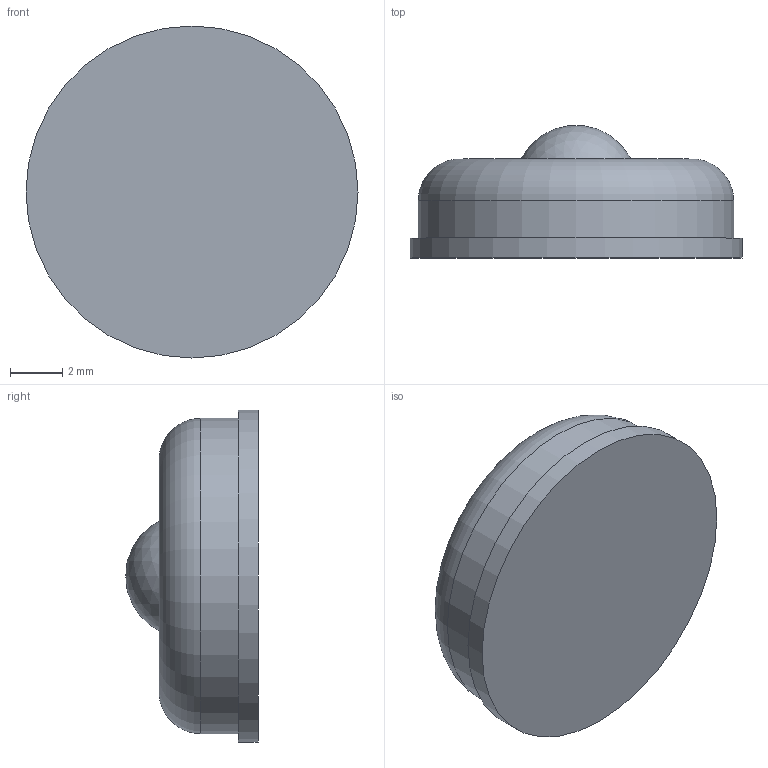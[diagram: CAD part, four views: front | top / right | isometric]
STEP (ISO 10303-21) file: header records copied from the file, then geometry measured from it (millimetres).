
FILE_DESCRIPTION(/* description */ (''),/* implementation_level */ '2;1');
FILE_NAME(/* name */ 'C:/Users/Mark/Downloads/STEP Files/BS58.step',/* time_stamp */ '2020-02-10T13:07:57-05:00',/* author */ (''),/* organization */ (''),/* preprocessor_version */ 'ST-DEVELOPER v18',/* originating_system */ 'Autodesk Translation Framework v8.12.0.6',/* authorisation */ '');
FILE_SCHEMA (('AUTOMOTIVE_DESIGN { 1 0 10303 214 3 1 1 }'));
Length unit declared in the file: inch
Products named in the file (1): BS58
Bounding box: 12.7 x 5.06 x 12.7 mm (x, y, z)
Volume: 419.8 mm3; surface area: 383.8 mm2
Topology: 1 solids, 1 shells, 7 faces, 17 edges, 13 vertices
Faces by surface type: torus 2, cylinder 2, plane 2, sphere 1
Full cylindrical faces by diameter (mm): 12.065 x1, 12.7 x1
Entity records: 261 total; most frequent: DIRECTION 48, CARTESIAN_POINT 38, ORIENTED_EDGE 34, AXIS2_PLACEMENT_3D 23, EDGE_CURVE 17, CIRCLE 15, VERTEX_POINT 13, EDGE_LOOP 8
